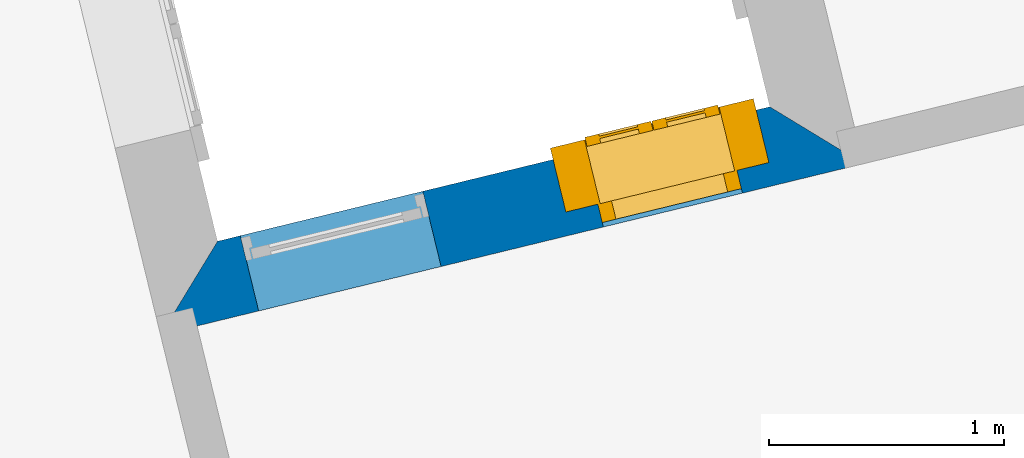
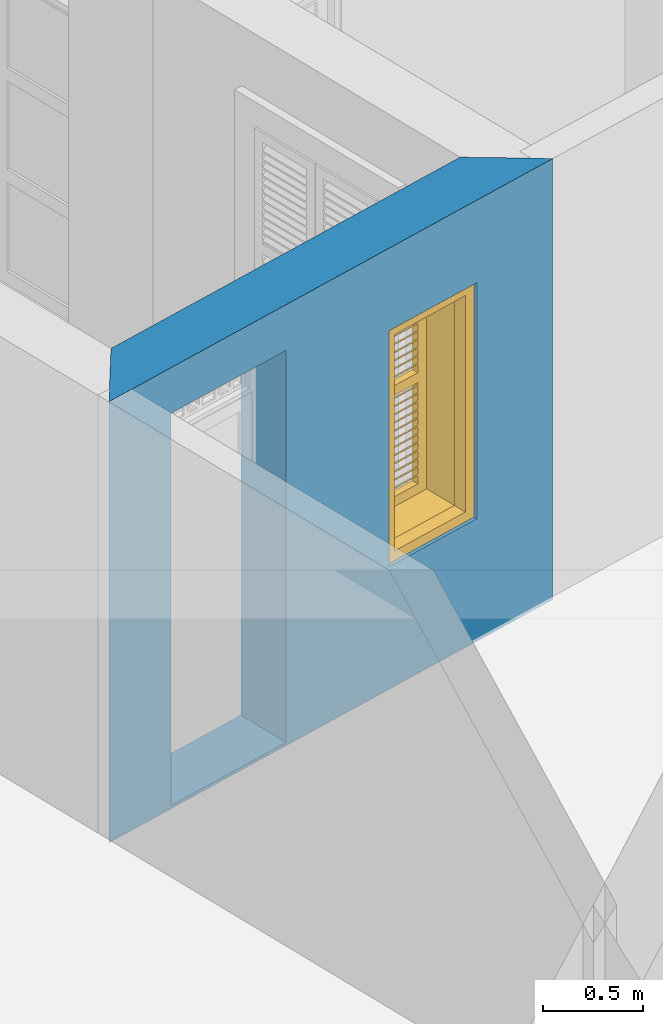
# One storey, part 4 of 15: 1 wall, 1 window, 2 openings.
"""IFC4 building model written with IfcOpenShell, lengths in metres."""

from ifc_helpers import new_model, si_unit, frame, origin, origin_with_axes, place, context, subcontext, project, spatial, polyline, outline, extrude, faceted_brep, source, transform, mapped, material, layer, layer_set, layer_usage, type_object, type_shapes, element, fill, save


model = new_model("IFC4")

# Units and contexts
model_context = context("Model", 3, world=origin_with_axes())
body_context = subcontext(model_context, "Body", "Model", "MODEL_VIEW")
ifc_project = project(units=[si_unit("PLANEANGLEUNIT", "RADIAN"), si_unit("MASSUNIT", "GRAM", prefix="KILO"), si_unit("FORCEUNIT", "NEWTON", prefix="KILO"), si_unit("LENGTHUNIT", "METRE"), si_unit("AREAUNIT", "SQUARE_METRE"), si_unit("VOLUMEUNIT", "CUBIC_METRE")], contexts=[model_context, model_context])

# Site, building, storey
site_placement = place(None, origin_with_axes())
site = spatial("IfcSite", under=ifc_project, at=site_placement, Name="Site plot-4", CompositionType="ELEMENT")
building_placement = place(None, origin_with_axes())
building = spatial("IfcBuilding", under=site, at=building_placement, Name="Building plot-4", CompositionType="ELEMENT")
storey_placement = place(None, origin_with_axes())
storey = spatial("IfcBuildingStorey", under=building, at=storey_placement, Name="plot-4 0", CompositionType="ELEMENT", Elevation=0.0)

# Wall, openings, window
ifc_material = material(Name="Masonry")
ifc_layer = layer(ifc_material, 0.33, ventilated=False)
ifc_layer_set = layer_set([ifc_layer], Name="exterior_0.08_0.25")
ifc_layer_usage = layer_usage(ifc_layer_set, "AXIS2", "POSITIVE", -0.25)
wall_type = type_object("IfcWallType", Name="exterior_0.08_0.25", PredefinedType="SOLIDWALL", material=ifc_layer_set)
wall_placement = place(storey_placement, frame((25.5764469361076, 8.43250370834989, 0.0), z_axis=(0.0, 0.0, 1.0), x_axis=(-0.971605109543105, -0.236608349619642, 0.0)))
wall = element("IfcWall", 1, at=wall_placement, inside=storey, type_object=wall_type, material=ifc_layer_usage, Name="exterior", context=body_context, shape_type="SweptSolid", body=[
    extrude(outline(polyline([(-0.0800000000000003, 0.0800000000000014), (0.25, -0.249999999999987), (2.67117269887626, -0.25), (3.00117269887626, 0.079999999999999), (-0.0800000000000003, 0.0800000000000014)])), origin_with_axes(), (0.0, 0.0, 1.0), 2.7),
])
opening_1_placement = place(wall_placement, frame((0.450000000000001, 0.0, 0.75)))
opening_1 = element("IfcOpeningElement", 2, at=opening_1_placement, cuts=wall, Name="My Opening", ObjectType="Opening", context=body_context, shape_type="SweptSolid", body=[
    extrude(outline(polyline([(0.0, -0.270000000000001), (0.61, -0.270000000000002), (0.609999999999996, 1.1), (-4.21884749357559e-15, 1.1), (0.0, -0.270000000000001)])), origin_with_axes(), (0.0, 0.0, 1.0), 1.445),
])
opening_2_placement = place(wall_placement, frame((1.77117269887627, 0.0, 0.02)))
element("IfcOpeningElement", 3, at=opening_2_placement, cuts=wall, Name="My Opening", ObjectType="Opening", context=body_context, shape_type="SweptSolid", body=[
    extrude(outline(polyline([(0.0, -0.270000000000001), (0.800000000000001, -0.270000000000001), (0.799999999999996, 1.1), (-4.21884749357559e-15, 1.1), (0.0, -0.270000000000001)])), origin_with_axes(), (0.0, 0.0, 1.0), 2.4),
])
window_type = type_object("IfcWindowType", Name="shuttered_shorter_narrow", PartitioningType="DOUBLE_PANEL_HORIZONTAL", PredefinedType="NOTDEFINED")
shared_shape = source(origin(), body_context, "Body", "Brep", [
    faceted_brep([(0.243, 0.0, 0.622), (0.074, 0.0, 0.622), (0.074, 0.0, 0.632), (0.243, 0.0, 0.632), (0.074, -0.04, 0.592), (0.243, -0.04, 0.592), (0.243, -0.04, 0.582), (0.074, -0.04, 0.582), (0.367, 0.0, 0.682), (0.536, 0.0, 0.682), (0.536, 0.0, 0.672), (0.367, 0.0, 0.672), (0.367, -0.04, 0.642), (0.536, -0.04, 0.642), (0.536, -0.04, 0.632), (0.367, -0.04, 0.632), (0.367, 0.0, 0.632), (0.536, 0.0, 0.632), (0.536, 0.0, 0.622), (0.367, 0.0, 0.622), (0.367, -0.04, 0.592), (0.536, -0.04, 0.592), (0.536, -0.04, 0.582), (0.367, -0.04, 0.582), (0.367, 0.0, 0.232), (0.536, 0.0, 0.232), (0.536, 0.0, 0.222), (0.367, 0.0, 0.222), (0.367, -0.04, 0.192), (0.536, -0.04, 0.192), (0.536, -0.04, 0.182), (0.367, -0.04, 0.182), (0.367, 0.0, 0.532), (0.536, 0.0, 0.532), (0.536, 0.0, 0.522), (0.367, 0.0, 0.522), (0.367, -0.04, 0.492), (0.536, -0.04, 0.492), (0.536, -0.04, 0.482), (0.367, -0.04, 0.482), (0.367, 0.0, 0.482), (0.536, 0.0, 0.482), (0.536, 0.0, 0.472), (0.367, 0.0, 0.472), (0.367, -0.04, 0.442), (0.536, -0.04, 0.442), (0.536, -0.04, 0.432), (0.367, -0.04, 0.432), (0.367, 0.0, 0.582), (0.536, 0.0, 0.582), (0.536, 0.0, 0.572), (0.367, 0.0, 0.572), (0.367, -0.04, 0.542), (0.536, -0.04, 0.542), (0.536, -0.04, 0.532), (0.367, -0.04, 0.532), (0.367, 0.0, 0.182), (0.536, 0.0, 0.182), (0.536, 0.0, 0.172), (0.367, 0.0, 0.172), (0.367, -0.04, 0.142), (0.536, -0.04, 0.142), (0.536, -0.04, 0.132), (0.367, -0.04, 0.132), (0.367, 0.0, 0.382), (0.536, 0.0, 0.382), (0.536, 0.0, 0.372), (0.367, 0.0, 0.372), (0.367, -0.04, 0.342), (0.536, -0.04, 0.342), (0.536, -0.04, 0.332), (0.367, -0.04, 0.332), (0.367, 0.0, 0.432), (0.536, 0.0, 0.432), (0.536, 0.0, 0.422), (0.367, 0.0, 0.422), (0.367, -0.04, 0.392), (0.536, -0.04, 0.392), (0.536, -0.04, 0.382), (0.367, -0.04, 0.382), (0.367, 0.0, 0.132), (0.536, 0.0, 0.132), (0.536, 0.0, 0.122), (0.367, 0.0, 0.122), (0.367, -0.04, 0.092), (0.536, -0.04, 0.092), (0.536, -0.04, 0.082), (0.367, -0.04, 0.082), (0.367, 0.0, 0.282), (0.536, 0.0, 0.282), (0.536, 0.0, 0.272), (0.367, 0.0, 0.272), (0.367, -0.04, 0.242), (0.536, -0.04, 0.242), (0.536, -0.04, 0.232), (0.367, -0.04, 0.232), (0.367, 0.0, 0.332), (0.536, 0.0, 0.332), (0.536, 0.0, 0.322), (0.367, 0.0, 0.322), (0.367, -0.04, 0.292), (0.536, -0.04, 0.292), (0.536, -0.04, 0.282), (0.367, -0.04, 0.282), (0.367, 0.0, 1.362667), (0.536, 0.0, 1.362667), (0.536, 0.0, 1.352667), (0.367, 0.0, 1.352667), (0.367, -0.04, 1.322667), (0.536, -0.04, 1.322667), (0.536, -0.04, 1.312667), (0.367, -0.04, 1.312667), (0.367, 0.0, 1.312667), (0.536, 0.0, 1.312667), (0.536, 0.0, 1.302667), (0.367, 0.0, 1.302667), (0.367, -0.04, 1.272667), (0.536, -0.04, 1.272667), (0.536, -0.04, 1.262667), (0.367, -0.04, 1.262667), (0.367, 0.0, 0.912667), (0.536, 0.0, 0.912667), (0.536, 0.0, 0.902667), (0.367, 0.0, 0.902667), (0.367, -0.04, 0.872667), (0.536, -0.04, 0.872667), (0.536, -0.04, 0.862667), (0.367, -0.04, 0.862667), (0.367, 0.0, 1.212667), (0.536, 0.0, 1.212667), (0.536, 0.0, 1.202667), (0.367, 0.0, 1.202667), (0.367, -0.04, 1.172667), (0.536, -0.04, 1.172667), (0.536, -0.04, 1.162667), (0.367, -0.04, 1.162667), (0.367, 0.0, 1.162667), (0.536, 0.0, 1.162667), (0.536, 0.0, 1.152667), (0.367, 0.0, 1.152667), (0.367, -0.04, 1.122667), (0.536, -0.04, 1.122667), (0.536, -0.04, 1.112667), (0.367, -0.04, 1.112667), (0.367, 0.0, 1.262667), (0.536, 0.0, 1.262667), (0.536, 0.0, 1.252667), (0.367, 0.0, 1.252667), (0.367, -0.04, 1.222667), (0.536, -0.04, 1.222667), (0.536, -0.04, 1.212667), (0.367, -0.04, 1.212667), (0.367, 0.0, 0.862667), (0.536, 0.0, 0.862667), (0.536, 0.0, 0.852667), (0.367, 0.0, 0.852667), (0.367, -0.04, 0.822667), (0.536, -0.04, 0.822667), (0.536, -0.04, 0.812667), (0.367, -0.04, 0.812667), (0.367, 0.0, 1.062667), (0.536, 0.0, 1.062667), (0.536, 0.0, 1.052667), (0.367, 0.0, 1.052667), (0.367, -0.04, 1.022667), (0.536, -0.04, 1.022667), (0.536, -0.04, 1.012667), (0.367, -0.04, 1.012667), (0.367, 0.0, 1.112667), (0.536, 0.0, 1.112667), (0.536, 0.0, 1.102667), (0.367, 0.0, 1.102667), (0.367, -0.04, 1.072667), (0.536, -0.04, 1.072667), (0.536, -0.04, 1.062667), (0.367, -0.04, 1.062667), (0.367, 0.0, 0.812667), (0.536, 0.0, 0.812667), (0.536, 0.0, 0.802667), (0.367, 0.0, 0.802667), (0.367, -0.04, 0.772667), (0.536, -0.04, 0.772667), (0.536, -0.04, 0.762667), (0.367, -0.04, 0.762667), (0.367, 0.0, 0.962667), (0.536, 0.0, 0.962667), (0.536, 0.0, 0.952667), (0.367, 0.0, 0.952667), (0.367, -0.04, 0.922667), (0.536, -0.04, 0.922667), (0.536, -0.04, 0.912667), (0.367, -0.04, 0.912667), (0.367, 0.0, 1.012667), (0.536, 0.0, 1.012667), (0.536, 0.0, 1.002667), (0.367, 0.0, 1.002667), (0.367, -0.04, 0.972667), (0.536, -0.04, 0.972667), (0.536, -0.04, 0.962667), (0.367, -0.04, 0.962667), (0.074, 0.0, 0.682), (0.243, 0.0, 0.682), (0.243, 0.0, 0.672), (0.074, 0.0, 0.672), (0.074, -0.04, 0.642), (0.243, -0.04, 0.642), (0.243, -0.04, 0.632), (0.074, -0.04, 0.632), (0.074, 0.0, 0.232), (0.243, 0.0, 0.232), (0.243, 0.0, 0.222), (0.074, 0.0, 0.222), (0.074, -0.04, 0.192), (0.243, -0.04, 0.192), (0.243, -0.04, 0.182), (0.074, -0.04, 0.182), (0.074, 0.0, 0.532), (0.243, 0.0, 0.532), (0.243, 0.0, 0.522), (0.074, 0.0, 0.522), (0.074, -0.04, 0.492), (0.243, -0.04, 0.492), (0.243, -0.04, 0.482), (0.074, -0.04, 0.482), (0.074, 0.0, 0.482), (0.243, 0.0, 0.482), (0.243, 0.0, 0.472), (0.074, 0.0, 0.472), (0.074, -0.04, 0.442), (0.243, -0.04, 0.442), (0.243, -0.04, 0.432), (0.074, -0.04, 0.432), (0.074, 0.0, 0.582), (0.243, 0.0, 0.582), (0.243, 0.0, 0.572), (0.074, 0.0, 0.572), (0.074, -0.04, 0.542), (0.243, -0.04, 0.542), (0.243, -0.04, 0.532), (0.074, -0.04, 0.532), (0.074, 0.0, 0.182), (0.243, 0.0, 0.182), (0.243, 0.0, 0.172), (0.074, 0.0, 0.172), (0.074, -0.04, 0.142), (0.243, -0.04, 0.142), (0.243, -0.04, 0.132), (0.074, -0.04, 0.132), (0.074, 0.0, 0.382), (0.243, 0.0, 0.382), (0.243, 0.0, 0.372), (0.074, 0.0, 0.372), (0.074, -0.04, 0.342), (0.243, -0.04, 0.342), (0.243, -0.04, 0.332), (0.074, -0.04, 0.332), (0.074, 0.0, 0.432), (0.243, 0.0, 0.432), (0.243, 0.0, 0.422), (0.074, 0.0, 0.422), (0.074, -0.04, 0.392), (0.243, -0.04, 0.392), (0.243, -0.04, 0.382), (0.074, -0.04, 0.382), (0.074, 0.0, 0.132), (0.243, 0.0, 0.132), (0.243, 0.0, 0.122), (0.074, 0.0, 0.122), (0.074, -0.04, 0.092), (0.243, -0.04, 0.092), (0.243, -0.04, 0.082), (0.074, -0.04, 0.082), (0.074, 0.0, 0.282), (0.243, 0.0, 0.282), (0.243, 0.0, 0.272), (0.074, 0.0, 0.272), (0.074, -0.04, 0.242), (0.243, -0.04, 0.242), (0.243, -0.04, 0.232), (0.074, -0.04, 0.232), (0.074, 0.0, 0.332), (0.243, 0.0, 0.332), (0.243, 0.0, 0.322), (0.074, 0.0, 0.322), (0.074, -0.04, 0.292), (0.243, -0.04, 0.292), (0.243, -0.04, 0.282), (0.074, -0.04, 0.282), (0.074, 0.0, 1.362667), (0.243, 0.0, 1.362667), (0.243, 0.0, 1.352667), (0.074, 0.0, 1.352667), (0.074, -0.04, 1.322667), (0.243, -0.04, 1.322667), (0.243, -0.04, 1.312667), (0.074, -0.04, 1.312667), (0.074, 0.0, 1.312667), (0.243, 0.0, 1.312667), (0.243, 0.0, 1.302667), (0.074, 0.0, 1.302667), (0.074, -0.04, 1.272667), (0.243, -0.04, 1.272667), (0.243, -0.04, 1.262667), (0.074, -0.04, 1.262667), (0.074, 0.0, 0.912667), (0.243, 0.0, 0.912667), (0.243, 0.0, 0.902667), (0.074, 0.0, 0.902667), (0.074, -0.04, 0.872667), (0.243, -0.04, 0.872667), (0.243, -0.04, 0.862667), (0.074, -0.04, 0.862667), (0.074, 0.0, 1.212667), (0.243, 0.0, 1.212667), (0.243, 0.0, 1.202667), (0.074, 0.0, 1.202667), (0.074, -0.04, 1.172667), (0.243, -0.04, 1.172667), (0.243, -0.04, 1.162667), (0.074, -0.04, 1.162667), (0.074, 0.0, 1.162667), (0.243, 0.0, 1.162667), (0.243, 0.0, 1.152667), (0.074, 0.0, 1.152667), (0.074, -0.04, 1.122667), (0.243, -0.04, 1.122667), (0.243, -0.04, 1.112667), (0.074, -0.04, 1.112667), (0.074, 0.0, 1.262667), (0.243, 0.0, 1.262667), (0.243, 0.0, 1.252667), (0.074, 0.0, 1.252667), (0.074, -0.04, 1.222667), (0.243, -0.04, 1.222667), (0.243, -0.04, 1.212667), (0.074, -0.04, 1.212667), (0.074, 0.0, 0.862667), (0.243, 0.0, 0.862667), (0.243, 0.0, 0.852667), (0.074, 0.0, 0.852667), (0.074, -0.04, 0.822667), (0.243, -0.04, 0.822667), (0.243, -0.04, 0.812667), (0.074, -0.04, 0.812667), (0.074, 0.0, 1.062667), (0.243, 0.0, 1.062667), (0.243, 0.0, 1.052667), (0.074, 0.0, 1.052667), (0.074, -0.04, 1.022667), (0.243, -0.04, 1.022667), (0.243, -0.04, 1.012667), (0.074, -0.04, 1.012667), (0.074, 0.0, 1.112667), (0.243, 0.0, 1.112667), (0.243, 0.0, 1.102667), (0.074, 0.0, 1.102667), (0.074, -0.04, 1.072667), (0.243, -0.04, 1.072667), (0.243, -0.04, 1.062667), (0.074, -0.04, 1.062667), (0.074, 0.0, 0.812667), (0.243, 0.0, 0.812667), (0.243, 0.0, 0.802667), (0.074, 0.0, 0.802667), (0.074, -0.04, 0.772667), (0.243, -0.04, 0.772667), (0.243, -0.04, 0.762667), (0.074, -0.04, 0.762667), (0.074, 0.0, 0.962667), (0.243, 0.0, 0.962667), (0.243, 0.0, 0.952667), (0.074, 0.0, 0.952667), (0.074, -0.04, 0.922667), (0.243, -0.04, 0.922667), (0.243, -0.04, 0.912667), (0.074, -0.04, 0.912667), (0.074, 0.0, 1.012667), (0.243, 0.0, 1.012667), (0.243, 0.0, 1.002667), (0.074, 0.0, 1.002667), (0.074, -0.04, 0.972667), (0.243, -0.04, 0.972667), (0.243, -0.04, 0.962667), (0.074, -0.04, 0.962667), (0.367, -0.04, 0.072), (0.307, -0.04, 0.012), (0.596, -0.04, 0.012), (0.536, -0.04, 0.072), (0.307, -0.04, 0.692667), (0.367, -0.04, 0.692667), (0.307, 0.0, 0.012), (0.596, 0.0, 0.012), (0.536, -0.04, 0.692667), (0.596, -0.04, 0.692667), (0.536, 0.0, 0.072), (0.367, 0.0, 0.072), (0.307, 0.0, 0.692667), (0.367, 0.0, 0.692667), (0.367, -0.04, 0.752666), (0.307, -0.04, 0.752666), (0.596, 0.0, 0.692667), (0.536, 0.0, 0.692667), (0.536, -0.04, 0.752666), (0.596, -0.04, 0.752666), (0.307, 0.0, 0.752666), (0.307, -0.04, 1.433333), (0.367, -0.04, 1.373333), (0.596, 0.0, 0.752666), (0.536, -0.04, 1.373333), (0.596, -0.04, 1.433333), (0.307, 0.0, 1.433333), (0.367, 0.0, 0.752666), (0.536, 0.0, 0.752666), (0.367, 0.0, 1.373333), (0.596, 0.0, 1.433333), (0.536, 0.0, 1.373333), (0.074, -0.04, 0.072), (0.014, -0.04, 0.012), (0.303, -0.04, 0.012), (0.243, -0.04, 0.072), (0.014, -0.04, 0.692667), (0.074, -0.04, 0.692667), (0.014, 0.0, 0.012), (0.303, 0.0, 0.012), (0.243, -0.04, 0.692667), (0.303, -0.04, 0.692667), (0.243, 0.0, 0.072), (0.074, 0.0, 0.072), (0.014, 0.0, 0.692667), (0.074, 0.0, 0.692667), (0.074, -0.04, 0.752666), (0.014, -0.04, 0.752666), (0.303, 0.0, 0.692667), (0.243, 0.0, 0.692667), (0.243, -0.04, 0.752666), (0.303, -0.04, 0.752666), (0.014, 0.0, 0.752666), (0.014, -0.04, 1.433333), (0.074, -0.04, 1.373333), (0.303, 0.0, 0.752666), (0.243, -0.04, 1.373333), (0.303, -0.04, 1.433333), (0.014, 0.0, 1.433333), (0.074, 0.0, 0.752666), (0.243, 0.0, 0.752666), (0.074, 0.0, 1.373333), (0.303, 0.0, 1.433333), (0.243, 0.0, 1.373333), (0.0, 0.33, 1.445), (0.61, 0.33, 1.445), (0.55, 0.33, 1.385), (0.06, 0.33, 1.385), (0.61, 0.25, 1.445), (0.0, 0.25, 1.445), (0.61, 0.25, 1.445), (0.55, 0.33, 0.06), (0.61, 0.33, 0.0), (0.55, 0.25, 1.385), (0.06, 0.25, 1.385), (0.0, 0.33, 0.0), (0.06, 0.33, 0.06), (0.0, 0.25, 0.0), (0.61, 0.25, 0.0), (0.55, 0.25, 0.06), (0.06, 0.25, 0.06), (0.75, 0.25, 1.585), (-0.14, 0.25, 1.585), (-0.14, -0.03, 1.585), (0.75, -0.03, 1.585), (0.6, -0.03, 1.435), (0.01, -0.03, 1.435), (0.01, 0.25, 1.435), (0.6, 0.25, 1.435), (0.6, 0.25, 0.01), (0.6, -0.03, 0.01), (0.75, -0.03, -0.14), (0.75, 0.25, -0.14), (0.01, -0.03, 0.01), (0.01, 0.25, 0.01), (-0.14, -0.03, -0.14), (-0.14, 0.25, -0.14)], [[[0, 1, 2, 3]], [[4, 5, 3, 2]], [[5, 6, 0, 3]], [[1, 0, 6, 7]], [[2, 1, 7, 4]], [[5, 4, 7, 6]], [[8, 9, 10, 11]], [[12, 13, 9, 8]], [[13, 14, 10, 9]], [[14, 15, 11, 10]], [[15, 12, 8, 11]], [[13, 12, 15, 14]], [[16, 17, 18, 19]], [[20, 21, 17, 16]], [[21, 22, 18, 17]], [[22, 23, 19, 18]], [[23, 20, 16, 19]], [[21, 20, 23, 22]], [[24, 25, 26, 27]], [[28, 29, 25, 24]], [[29, 30, 26, 25]], [[30, 31, 27, 26]], [[31, 28, 24, 27]], [[29, 28, 31, 30]], [[32, 33, 34, 35]], [[36, 37, 33, 32]], [[37, 38, 34, 33]], [[38, 39, 35, 34]], [[39, 36, 32, 35]], [[37, 36, 39, 38]], [[40, 41, 42, 43]], [[44, 45, 41, 40]], [[45, 46, 42, 41]], [[46, 47, 43, 42]], [[47, 44, 40, 43]], [[45, 44, 47, 46]], [[48, 49, 50, 51]], [[52, 53, 49, 48]], [[53, 54, 50, 49]], [[54, 55, 51, 50]], [[55, 52, 48, 51]], [[53, 52, 55, 54]], [[56, 57, 58, 59]], [[60, 61, 57, 56]], [[61, 62, 58, 57]], [[62, 63, 59, 58]], [[63, 60, 56, 59]], [[61, 60, 63, 62]], [[64, 65, 66, 67]], [[68, 69, 65, 64]], [[69, 70, 66, 65]], [[70, 71, 67, 66]], [[71, 68, 64, 67]], [[69, 68, 71, 70]], [[72, 73, 74, 75]], [[76, 77, 73, 72]], [[77, 78, 74, 73]], [[78, 79, 75, 74]], [[79, 76, 72, 75]], [[77, 76, 79, 78]], [[80, 81, 82, 83]], [[84, 85, 81, 80]], [[85, 86, 82, 81]], [[86, 87, 83, 82]], [[87, 84, 80, 83]], [[85, 84, 87, 86]], [[88, 89, 90, 91]], [[92, 93, 89, 88]], [[93, 94, 90, 89]], [[94, 95, 91, 90]], [[95, 92, 88, 91]], [[93, 92, 95, 94]], [[96, 97, 98, 99]], [[100, 101, 97, 96]], [[101, 102, 98, 97]], [[102, 103, 99, 98]], [[103, 100, 96, 99]], [[101, 100, 103, 102]], [[104, 105, 106, 107]], [[108, 109, 105, 104]], [[109, 110, 106, 105]], [[110, 111, 107, 106]], [[111, 108, 104, 107]], [[109, 108, 111, 110]], [[112, 113, 114, 115]], [[116, 117, 113, 112]], [[117, 118, 114, 113]], [[118, 119, 115, 114]], [[119, 116, 112, 115]], [[117, 116, 119, 118]], [[120, 121, 122, 123]], [[124, 125, 121, 120]], [[125, 126, 122, 121]], [[126, 127, 123, 122]], [[127, 124, 120, 123]], [[125, 124, 127, 126]], [[128, 129, 130, 131]], [[132, 133, 129, 128]], [[133, 134, 130, 129]], [[134, 135, 131, 130]], [[135, 132, 128, 131]], [[133, 132, 135, 134]], [[136, 137, 138, 139]], [[140, 141, 137, 136]], [[141, 142, 138, 137]], [[142, 143, 139, 138]], [[139, 143, 140, 136]], [[141, 140, 143, 142]], [[144, 145, 146, 147]], [[148, 149, 145, 144]], [[149, 150, 146, 145]], [[150, 151, 147, 146]], [[151, 148, 144, 147]], [[149, 148, 151, 150]], [[152, 153, 154, 155]], [[156, 157, 153, 152]], [[157, 158, 154, 153]], [[158, 159, 155, 154]], [[159, 156, 152, 155]], [[157, 156, 159, 158]], [[160, 161, 162, 163]], [[164, 165, 161, 160]], [[165, 166, 162, 161]], [[166, 167, 163, 162]], [[167, 164, 160, 163]], [[165, 164, 167, 166]], [[168, 169, 170, 171]], [[172, 173, 169, 168]], [[173, 174, 170, 169]], [[174, 175, 171, 170]], [[175, 172, 168, 171]], [[173, 172, 175, 174]], [[176, 177, 178, 179]], [[180, 181, 177, 176]], [[181, 182, 178, 177]], [[182, 183, 179, 178]], [[183, 180, 176, 179]], [[181, 180, 183, 182]], [[184, 185, 186, 187]], [[188, 189, 185, 184]], [[189, 190, 186, 185]], [[190, 191, 187, 186]], [[191, 188, 184, 187]], [[189, 188, 191, 190]], [[192, 193, 194, 195]], [[196, 197, 193, 192]], [[197, 198, 194, 193]], [[198, 199, 195, 194]], [[199, 196, 192, 195]], [[197, 196, 199, 198]], [[200, 201, 202, 203]], [[204, 205, 201, 200]], [[205, 206, 202, 201]], [[206, 207, 203, 202]], [[207, 204, 200, 203]], [[205, 204, 207, 206]], [[208, 209, 210, 211]], [[212, 213, 209, 208]], [[213, 214, 210, 209]], [[214, 215, 211, 210]], [[215, 212, 208, 211]], [[213, 212, 215, 214]], [[216, 217, 218, 219]], [[220, 221, 217, 216]], [[221, 222, 218, 217]], [[222, 223, 219, 218]], [[223, 220, 216, 219]], [[221, 220, 223, 222]], [[224, 225, 226, 227]], [[228, 229, 225, 224]], [[229, 230, 226, 225]], [[230, 231, 227, 226]], [[231, 228, 224, 227]], [[229, 228, 231, 230]], [[232, 233, 234, 235]], [[236, 237, 233, 232]], [[237, 238, 234, 233]], [[238, 239, 235, 234]], [[239, 236, 232, 235]], [[237, 236, 239, 238]], [[240, 241, 242, 243]], [[244, 245, 241, 240]], [[245, 246, 242, 241]], [[246, 247, 243, 242]], [[247, 244, 240, 243]], [[245, 244, 247, 246]], [[248, 249, 250, 251]], [[252, 253, 249, 248]], [[253, 254, 250, 249]], [[254, 255, 251, 250]], [[255, 252, 248, 251]], [[253, 252, 255, 254]], [[256, 257, 258, 259]], [[260, 261, 257, 256]], [[261, 262, 258, 257]], [[262, 263, 259, 258]], [[263, 260, 256, 259]], [[261, 260, 263, 262]], [[264, 265, 266, 267]], [[268, 269, 265, 264]], [[269, 270, 266, 265]], [[270, 271, 267, 266]], [[271, 268, 264, 267]], [[269, 268, 271, 270]], [[272, 273, 274, 275]], [[276, 277, 273, 272]], [[277, 278, 274, 273]], [[278, 279, 275, 274]], [[279, 276, 272, 275]], [[277, 276, 279, 278]], [[280, 281, 282, 283]], [[284, 285, 281, 280]], [[285, 286, 282, 281]], [[286, 287, 283, 282]], [[287, 284, 280, 283]], [[285, 284, 287, 286]], [[288, 289, 290, 291]], [[292, 293, 289, 288]], [[293, 294, 290, 289]], [[294, 295, 291, 290]], [[295, 292, 288, 291]], [[293, 292, 295, 294]], [[296, 297, 298, 299]], [[300, 301, 297, 296]], [[301, 302, 298, 297]], [[302, 303, 299, 298]], [[303, 300, 296, 299]], [[301, 300, 303, 302]], [[304, 305, 306, 307]], [[308, 309, 305, 304]], [[309, 310, 306, 305]], [[310, 311, 307, 306]], [[311, 308, 304, 307]], [[309, 308, 311, 310]], [[312, 313, 314, 315]], [[316, 317, 313, 312]], [[317, 318, 314, 313]], [[318, 319, 315, 314]], [[319, 316, 312, 315]], [[317, 316, 319, 318]], [[320, 321, 322, 323]], [[324, 325, 321, 320]], [[325, 326, 322, 321]], [[326, 327, 323, 322]], [[327, 324, 320, 323]], [[325, 324, 327, 326]], [[328, 329, 330, 331]], [[332, 333, 329, 328]], [[333, 334, 330, 329]], [[334, 335, 331, 330]], [[335, 332, 328, 331]], [[333, 332, 335, 334]], [[336, 337, 338, 339]], [[340, 341, 337, 336]], [[341, 342, 338, 337]], [[342, 343, 339, 338]], [[343, 340, 336, 339]], [[341, 340, 343, 342]], [[344, 345, 346, 347]], [[348, 349, 345, 344]], [[349, 350, 346, 345]], [[350, 351, 347, 346]], [[351, 348, 344, 347]], [[349, 348, 351, 350]], [[352, 353, 354, 355]], [[356, 357, 353, 352]], [[357, 358, 354, 353]], [[358, 359, 355, 354]], [[359, 356, 352, 355]], [[357, 356, 359, 358]], [[360, 361, 362, 363]], [[364, 365, 361, 360]], [[365, 366, 362, 361]], [[366, 367, 363, 362]], [[367, 364, 360, 363]], [[365, 364, 367, 366]], [[368, 369, 370, 371]], [[372, 373, 369, 368]], [[373, 374, 370, 369]], [[374, 375, 371, 370]], [[375, 372, 368, 371]], [[373, 372, 375, 374]], [[376, 377, 378, 379]], [[380, 381, 377, 376]], [[381, 382, 378, 377]], [[382, 383, 379, 378]], [[383, 380, 376, 379]], [[381, 380, 383, 382]], [[384, 385, 386, 387]], [[388, 385, 384, 389]], [[390, 391, 386, 385]], [[392, 387, 386, 393]], [[384, 387, 394, 395]], [[390, 385, 388, 396]], [[389, 384, 395, 397]], [[389, 398, 399, 388]], [[390, 395, 394, 391]], [[400, 393, 386, 391]], [[387, 392, 401, 394]], [[402, 392, 393, 403]], [[396, 388, 399, 404]], [[390, 396, 397, 395]], [[392, 389, 397, 401]], [[398, 389, 392, 402]], [[405, 399, 398, 406]], [[394, 401, 400, 391]], [[407, 403, 393, 400]], [[408, 402, 403, 409]], [[404, 399, 405, 410]], [[411, 397, 396, 404]], [[397, 411, 412, 401]], [[398, 402, 412, 411]], [[406, 398, 411, 413]], [[405, 406, 408, 409]], [[401, 412, 407, 400]], [[414, 409, 403, 407]], [[402, 408, 415, 412]], [[405, 409, 414, 410]], [[404, 410, 413, 411]], [[408, 406, 413, 415]], [[412, 415, 414, 407]], [[413, 410, 414, 415]], [[416, 417, 418, 419]], [[420, 417, 416, 421]], [[422, 423, 418, 417]], [[424, 419, 418, 425]], [[416, 419, 426, 427]], [[422, 417, 420, 428]], [[421, 416, 427, 429]], [[421, 430, 431, 420]], [[422, 427, 426, 423]], [[432, 425, 418, 423]], [[419, 424, 433, 426]], [[434, 424, 425, 435]], [[428, 420, 431, 436]], [[422, 428, 429, 427]], [[424, 421, 429, 433]], [[430, 421, 424, 434]], [[437, 431, 430, 438]], [[426, 433, 432, 423]], [[439, 435, 425, 432]], [[440, 434, 435, 441]], [[436, 431, 437, 442]], [[443, 429, 428, 436]], [[429, 443, 444, 433]], [[430, 434, 444, 443]], [[438, 430, 443, 445]], [[437, 438, 440, 441]], [[433, 444, 439, 432]], [[446, 441, 435, 439]], [[434, 440, 447, 444]], [[437, 441, 446, 442]], [[436, 442, 445, 443]], [[440, 438, 445, 447]], [[444, 447, 446, 439]], [[445, 442, 446, 447]], [[448, 449, 450, 451]], [[452, 449, 448]], [[448, 453, 454]], [[448, 454, 452]], [[455, 450, 449, 456]], [[451, 450, 457, 458]], [[459, 448, 451, 460]], [[448, 459, 461, 453]], [[454, 453, 458, 457]], [[462, 452, 454]], [[454, 457, 463]], [[454, 463, 462]], [[456, 449, 452, 462]], [[450, 455, 463, 457]], [[456, 459, 460, 455]], [[460, 451, 458, 464]], [[459, 456, 462, 461]], [[464, 458, 453, 461]], [[461, 462, 463, 464]], [[455, 460, 464, 463]], [[465, 466, 467, 468]], [[469, 470, 471, 472]], [[473, 474, 469, 472]], [[465, 468, 475, 476]], [[470, 477, 478, 471]], [[474, 473, 478, 477]], [[474, 477, 479, 475]], [[470, 467, 479, 477]], [[470, 469, 468, 467]], [[474, 475, 468, 469]], [[471, 478, 480, 466]], [[473, 472, 465, 476]], [[473, 476, 480, 478]], [[466, 465, 472, 471]], [[480, 476, 475, 479]], [[480, 479, 467, 466]]]),
])
type_shapes(window_type, [shared_shape])
window_placement = place(storey_placement, frame((25.0753403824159, 8.58836333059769, 0.75), z_axis=(0.0, 0.0, 1.0), x_axis=(-0.592679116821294, -0.144331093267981, 0.0)))
window = element("IfcWindow", 4, at=window_placement, inside=storey, type_object=window_type, Name="bedroom sahn window", OverallHeight=1.445, OverallWidth=0.61, context=body_context, shape_type="MappedRepresentation", body=[
    mapped(shared_shape, transform((0.0, 0.0, 0.0), scale=1.0)),
])
fill(opening_1, window)

save(model, "model.ifc")
